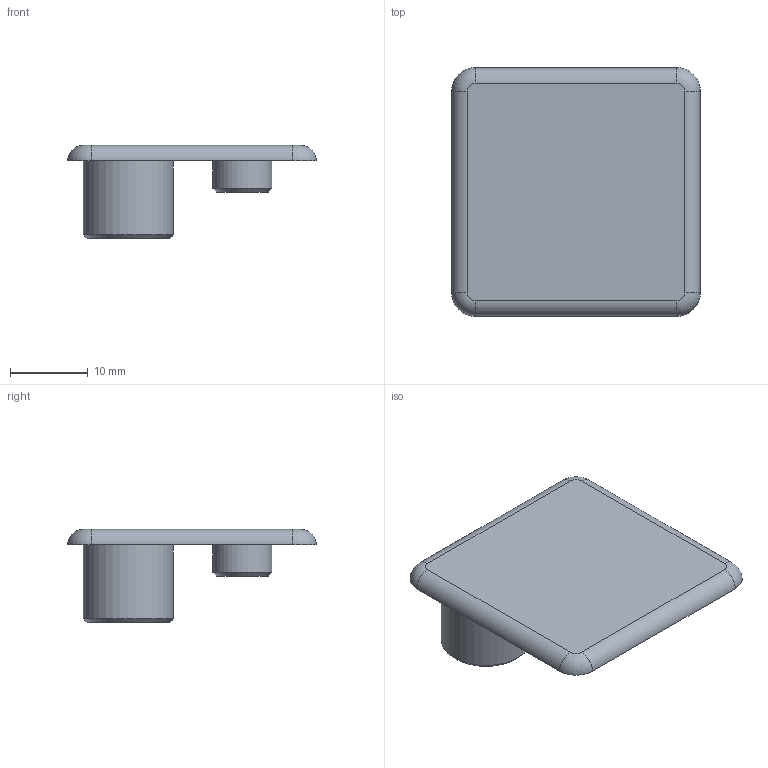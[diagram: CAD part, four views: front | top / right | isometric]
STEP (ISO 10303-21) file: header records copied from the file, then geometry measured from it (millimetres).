
FILE_DESCRIPTION (( 'STEP AP214' ), '1' );
FILE_NAME ('SL01003.step', '2024-12-03T16:30:00', ( '' ), ( '' ), 'SwSTEP 2.0', 'SolidWorks 2023', '' );
FILE_SCHEMA (( 'AUTOMOTIVE_DESIGN' ));
Length unit declared in the file: millimetre
Products named in the file (1): SL01003
Bounding box: 32 x 32 x 12 mm (x, y, z)
Volume: 2262 mm3; surface area: 3002.2 mm2
Topology: 1 solids, 1 shells, 20 faces, 42 edges, 28 vertices
Faces by surface type: cylinder 8, plane 6, torus 4, cone 2
Full cylindrical faces by diameter (mm): 6 x1, 7.6 x1, 10 x1, 11.6 x1
Entity records: 527 total; most frequent: DIRECTION 102, CARTESIAN_POINT 81, ORIENTED_EDGE 68, AXIS2_PLACEMENT_3D 47, EDGE_CURVE 34, EDGE_LOOP 30, VERTEX_POINT 26, CIRCLE 26
